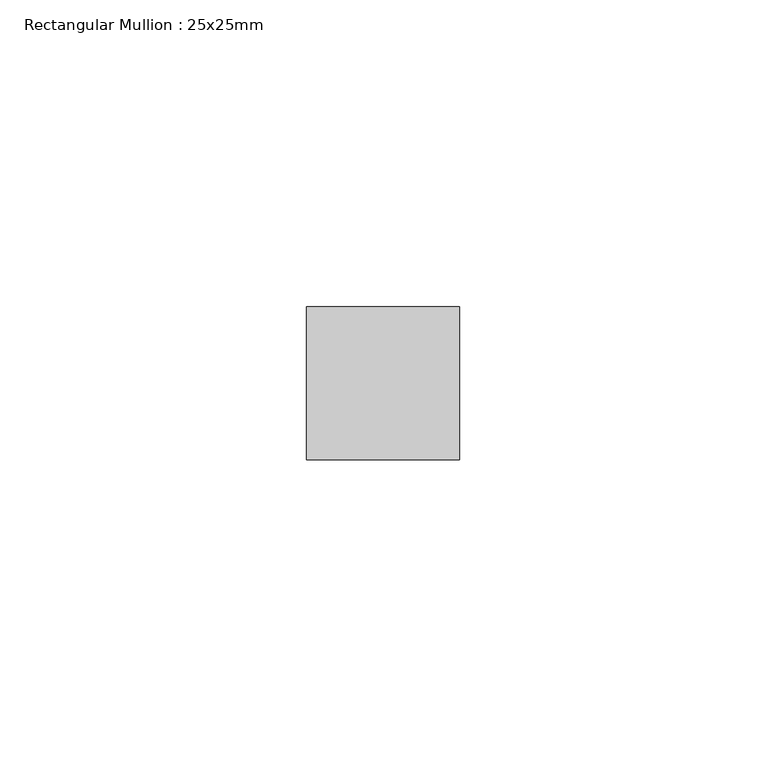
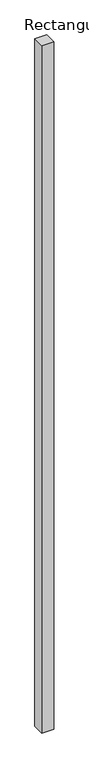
"""IFC4 building model written with IfcOpenShell, lengths in millimetres: member geometry, Rectangular Mullion : 25x25mm."""

from ifc_helpers import new_model, si_unit, frame, origin, place, context, project, spatial, polyline, outline, extrude, source, transform, mapped, element, save


def rectangular_mullion_25x25mm_154c87ff(model_context):
    return source(origin(), model_context, "Body", "SweptSolid", [
        extrude(outline(polyline([(0.0, 24.5), (0.0, -0.5), (-25.0, -0.5), (-25.0, 24.5), (0.0, 24.5)])), frame((0.0, 0.0, -1533.9285714), z_axis=(0.0, 0.0, 1.0), x_axis=(1.0, 0.0, 0.0)), (0.0, 0.0, 1.0), 1533.9285714),
    ])


if __name__ == "__main__":
    model = new_model("IFC4")
    model_context = context("Model", 3, world=origin())
    ifc_project = project(units=[si_unit("LENGTHUNIT", "METRE", prefix="MILLI")], contexts=[model_context])
    site = spatial("IfcSite", under=ifc_project)
    building = spatial("IfcBuilding", under=site)
    placement = place(None, origin())
    rectangular_mullion_25x25mm_shape = rectangular_mullion_25x25mm_154c87ff(model_context)
    element("IfcMember", 1, ObjectType="Rectangular Mullion : 25x25mm", at=placement, inside=building, context=model_context, shape_type="MappedRepresentation", body=[
        mapped(rectangular_mullion_25x25mm_shape, transform((0.0, 0.0, 0.0), x_axis=(1.0, 0.0, 0.0), y_axis=(0.0, 1.0, 0.0), z_axis=(0.0, 0.0, 1.0))),
    ])
    save(model, "model.ifc")
